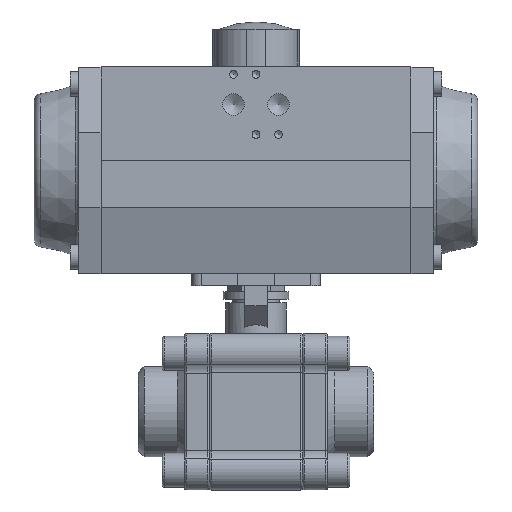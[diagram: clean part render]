
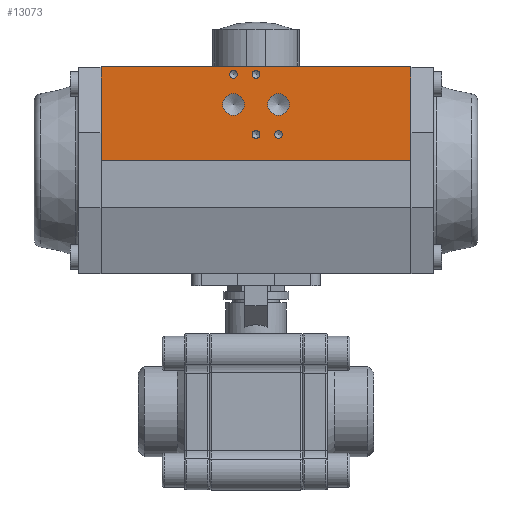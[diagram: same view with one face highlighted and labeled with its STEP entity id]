
A CAD part, top view. The second image highlights one B-rep face of the part: STEP entity #13073.
In plain terms, the highlighted planar face has unit normal (0, 0, 1) as drawn and (1, 0, 0) by its records, which use the part's own axes.
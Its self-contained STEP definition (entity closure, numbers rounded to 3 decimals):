
#164 = ORIENTED_EDGE ( 'NONE', *, *, #8551, .F. ) ;
#359 = EDGE_CURVE ( 'NONE', #7895, #8205, #12714, .T. ) ;
#553 = ORIENTED_EDGE ( 'NONE', *, *, #9641, .F. ) ;
#964 = FACE_BOUND ( 'NONE', #9909, .T. ) ;
#1049 = DIRECTION ( 'NONE',  ( 0., 0., -1. ) ) ;
#1086 = EDGE_LOOP ( 'NONE', ( #11806 ) ) ;
#1157 = ORIENTED_EDGE ( 'NONE', *, *, #3283, .F. ) ;
#1679 = LINE ( 'NONE', #12991, #9241 ) ;
#1778 = CARTESIAN_POINT ( 'NONE',  ( 53., 35., 6.277 ) ) ;
#1842 = DIRECTION ( 'NONE',  ( 0., 1., 0. ) ) ;
#1854 = VERTEX_POINT ( 'NONE', #10933 ) ;
#1919 = LINE ( 'NONE', #7980, #9849 ) ;
#1947 = CARTESIAN_POINT ( 'NONE',  ( 53., 5., -82.5 ) ) ;
#1953 = EDGE_CURVE ( 'NONE', #3746, #3746, #5170, .T. ) ;
#1995 = CARTESIAN_POINT ( 'NONE',  ( 53., 55., 82.5 ) ) ;
#2076 = FACE_BOUND ( 'NONE', #3651, .T. ) ;
#2077 = ORIENTED_EDGE ( 'NONE', *, *, #5885, .F. ) ;
#2213 = EDGE_CURVE ( 'NONE', #7895, #8209, #1679, .T. ) ;
#2449 = CARTESIAN_POINT ( 'NONE',  ( 53., 19., 0. ) ) ;
#2521 = DIRECTION ( 'NONE',  ( 0., 0., 1. ) ) ;
#2558 = AXIS2_PLACEMENT_3D ( 'NONE', #2449, #11499, #5451 ) ;
#2766 = DIRECTION ( 'NONE',  ( 0., 0., 1. ) ) ;
#2784 = EDGE_CURVE ( 'NONE', #8209, #8861, #1919, .T. ) ;
#2824 = AXIS2_PLACEMENT_3D ( 'NONE', #11417, #5298, #3119 ) ;
#2961 = VERTEX_POINT ( 'NONE', #8843 ) ;
#3070 = EDGE_LOOP ( 'NONE', ( #8815 ) ) ;
#3076 = FACE_BOUND ( 'NONE', #11597, .T. ) ;
#3119 = DIRECTION ( 'NONE',  ( 0., 0., -1. ) ) ;
#3283 = EDGE_CURVE ( 'NONE', #4905, #4905, #4348, .T. ) ;
#3402 = ORIENTED_EDGE ( 'NONE', *, *, #2213, .T. ) ;
#3651 = EDGE_LOOP ( 'NONE', ( #2077 ) ) ;
#3746 = VERTEX_POINT ( 'NONE', #1778 ) ;
#3808 = CARTESIAN_POINT ( 'NONE',  ( 53., 19., -14.1 ) ) ;
#3908 = DIRECTION ( 'NONE',  ( 1., 0., 0. ) ) ;
#3911 = ORIENTED_EDGE ( 'NONE', *, *, #359, .F. ) ;
#3939 = DIRECTION ( 'NONE',  ( 1., 0., 0. ) ) ;
#3977 = PLANE ( 'NONE',  #9651 ) ;
#4153 = CARTESIAN_POINT ( 'NONE',  ( 53., 19., -2.1 ) ) ;
#4157 = AXIS2_PLACEMENT_3D ( 'NONE', #5327, #7289, #1049 ) ;
#4158 = EDGE_CURVE ( 'NONE', #1854, #1854, #10926, .T. ) ;
#4159 = AXIS2_PLACEMENT_3D ( 'NONE', #9051, #3939, #8049 ) ;
#4348 = CIRCLE ( 'NONE', #4157, 2.1 ) ;
#4905 = VERTEX_POINT ( 'NONE', #3808 ) ;
#4922 = CARTESIAN_POINT ( 'NONE',  ( 53., 35., -12. ) ) ;
#5044 = VECTOR ( 'NONE', #1842, 1000. ) ;
#5170 = CIRCLE ( 'NONE', #2824, 5.722 ) ;
#5298 = DIRECTION ( 'NONE',  ( 1., 0., 0. ) ) ;
#5323 = CARTESIAN_POINT ( 'NONE',  ( 53., 5., 82.5 ) ) ;
#5327 = CARTESIAN_POINT ( 'NONE',  ( 53., 19., -12. ) ) ;
#5416 = CARTESIAN_POINT ( 'NONE',  ( 53., 5., -82.5 ) ) ;
#5451 = DIRECTION ( 'NONE',  ( 0., 0., -1. ) ) ;
#5885 = EDGE_CURVE ( 'NONE', #11470, #11470, #8330, .T. ) ;
#5950 = CARTESIAN_POINT ( 'NONE',  ( 53., 51., 0. ) ) ;
#6108 = CIRCLE ( 'NONE', #4159, 2.1 ) ;
#6741 = VECTOR ( 'NONE', #2521, 1000. ) ;
#7148 = FACE_BOUND ( 'NONE', #1086, .T. ) ;
#7289 = DIRECTION ( 'NONE',  ( 1., 0., 0. ) ) ;
#7369 = CIRCLE ( 'NONE', #8012, 2.1 ) ;
#7735 = CARTESIAN_POINT ( 'NONE',  ( 53., 5., -82.5 ) ) ;
#7801 = DIRECTION ( 'NONE',  ( 1., 0., 0. ) ) ;
#7895 = VERTEX_POINT ( 'NONE', #5416 ) ;
#7973 = LINE ( 'NONE', #13018, #5044 ) ;
#7980 = CARTESIAN_POINT ( 'NONE',  ( 53., 55., -82.5 ) ) ;
#8012 = AXIS2_PLACEMENT_3D ( 'NONE', #5950, #10020, #9752 ) ;
#8049 = DIRECTION ( 'NONE',  ( 0., 0., -1. ) ) ;
#8141 = FACE_OUTER_BOUND ( 'NONE', #9539, .T. ) ;
#8205 = VERTEX_POINT ( 'NONE', #5323 ) ;
#8209 = VERTEX_POINT ( 'NONE', #12376 ) ;
#8330 = CIRCLE ( 'NONE', #2558, 2.1 ) ;
#8551 = EDGE_CURVE ( 'NONE', #11285, #11285, #6108, .T. ) ;
#8815 = ORIENTED_EDGE ( 'NONE', *, *, #12935, .F. ) ;
#8843 = CARTESIAN_POINT ( 'NONE',  ( 53., 51., -2.1 ) ) ;
#8861 = VERTEX_POINT ( 'NONE', #1995 ) ;
#9051 = CARTESIAN_POINT ( 'NONE',  ( 53., 51., 12. ) ) ;
#9178 = ORIENTED_EDGE ( 'NONE', *, *, #1953, .F. ) ;
#9241 = VECTOR ( 'NONE', #11969, 1000. ) ;
#9395 = EDGE_LOOP ( 'NONE', ( #1157 ) ) ;
#9539 = EDGE_LOOP ( 'NONE', ( #12388, #553, #3911, #3402 ) ) ;
#9641 = EDGE_CURVE ( 'NONE', #8205, #8861, #7973, .T. ) ;
#9651 = AXIS2_PLACEMENT_3D ( 'NONE', #1947, #3908, #10229 ) ;
#9752 = DIRECTION ( 'NONE',  ( 0., 0., -1. ) ) ;
#9849 = VECTOR ( 'NONE', #2766, 1000. ) ;
#9909 = EDGE_LOOP ( 'NONE', ( #9178 ) ) ;
#10020 = DIRECTION ( 'NONE',  ( 1., 0., 0. ) ) ;
#10229 = DIRECTION ( 'NONE',  ( 0., 0., -1. ) ) ;
#10261 = CARTESIAN_POINT ( 'NONE',  ( 53., 51., 9.9 ) ) ;
#10926 = CIRCLE ( 'NONE', #12419, 5.722 ) ;
#10933 = CARTESIAN_POINT ( 'NONE',  ( 53., 35., -17.722 ) ) ;
#11285 = VERTEX_POINT ( 'NONE', #10261 ) ;
#11417 = CARTESIAN_POINT ( 'NONE',  ( 53., 35., 12. ) ) ;
#11470 = VERTEX_POINT ( 'NONE', #4153 ) ;
#11499 = DIRECTION ( 'NONE',  ( 1., 0., 0. ) ) ;
#11597 = EDGE_LOOP ( 'NONE', ( #164 ) ) ;
#11806 = ORIENTED_EDGE ( 'NONE', *, *, #4158, .F. ) ;
#11969 = DIRECTION ( 'NONE',  ( 0., 1., 0. ) ) ;
#12225 = FACE_BOUND ( 'NONE', #3070, .T. ) ;
#12376 = CARTESIAN_POINT ( 'NONE',  ( 53., 55., -82.5 ) ) ;
#12388 = ORIENTED_EDGE ( 'NONE', *, *, #2784, .T. ) ;
#12419 = AXIS2_PLACEMENT_3D ( 'NONE', #4922, #7801, #13118 ) ;
#12714 = LINE ( 'NONE', #7735, #6741 ) ;
#12935 = EDGE_CURVE ( 'NONE', #2961, #2961, #7369, .T. ) ;
#12991 = CARTESIAN_POINT ( 'NONE',  ( 53., 5., -82.5 ) ) ;
#13018 = CARTESIAN_POINT ( 'NONE',  ( 53., 5., 82.5 ) ) ;
#13073 = ADVANCED_FACE ( 'NONE', ( #3076, #13129, #2076, #12225, #7148, #964, #8141 ), #3977, .T. ) ;
#13118 = DIRECTION ( 'NONE',  ( 0., 0., -1. ) ) ;
#13129 = FACE_BOUND ( 'NONE', #9395, .T. ) ;
